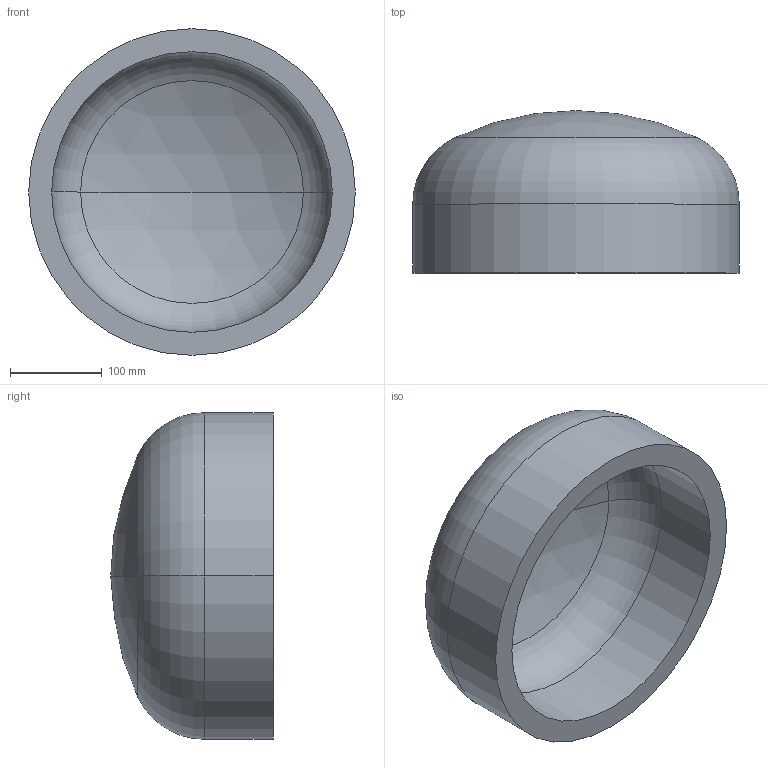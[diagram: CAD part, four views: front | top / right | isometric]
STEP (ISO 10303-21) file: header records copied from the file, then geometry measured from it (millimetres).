
FILE_DESCRIPTION (( 'STEP AP203' ), '1' );
FILE_NAME ('DIN 28013 Korbbogenform_-_Boden DIN 28013 - 355,6 x 75 - I - s=25.step', '2016-07-01T07:47:12', ( '' ), ( '' ), 'SwSTEP 2.0', 'SolidWorks 2013', '' );
FILE_SCHEMA (( 'CONFIG_CONTROL_DESIGN' ));
Length unit declared in the file: millimetre
Products named in the file (1): DIN 28013 Korbbogenform_-_Boden DIN 28013 - 355,6 x 75 - I - s=25
Bounding box: 355.6 x 176.93 x 355.6 mm (x, y, z)
Volume: 5096703.3 mm3; surface area: 435010.5 mm2
Topology: 1 solids, 1 shells, 13 faces, 24 edges, 14 vertices
Faces by surface type: torus 4, cylinder 4, sphere 4, plane 1
Entity records: 407 total; most frequent: DIRECTION 72, CARTESIAN_POINT 52, ORIENTED_EDGE 48, AXIS2_PLACEMENT_3D 34, EDGE_CURVE 24, CIRCLE 20, VERTEX_POINT 14, EDGE_LOOP 14
